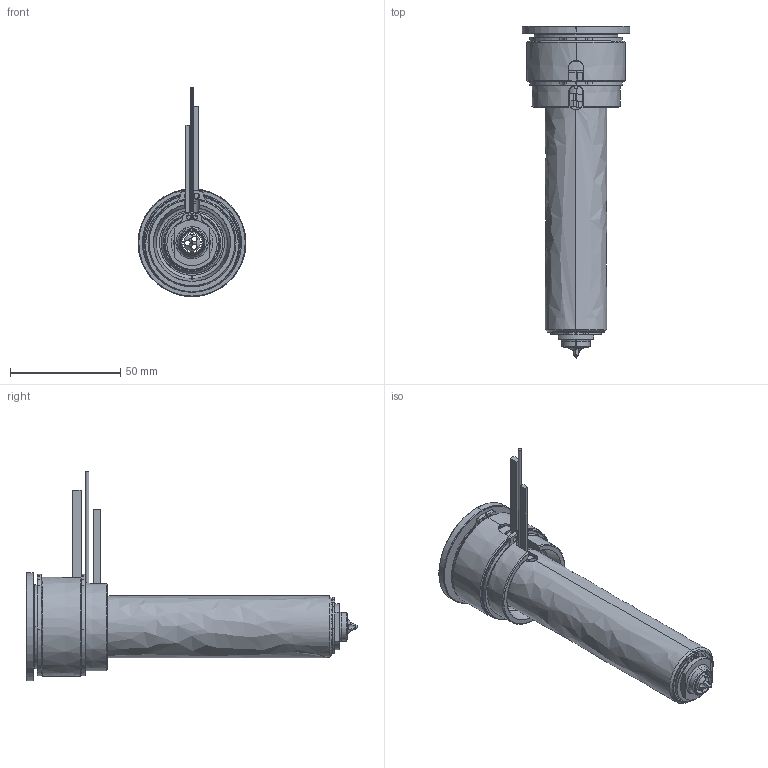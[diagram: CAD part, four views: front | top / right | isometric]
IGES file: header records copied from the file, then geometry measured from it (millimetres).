
Start section: SolidWorks IGES file using analytic representation for surfaces
Global section: file name: C:\Documents and Settings\ws-20\Desktop\TEM\UGEP4503-S-A-1 [Øf-0.88 ØC-09].IGS; native system: SolidWorks 2012; preprocessor: SolidWorks 2012; author: ws-20; date: 120424.085703; units: millimetre
Bounding box: 49 x 150.8 x 95.15 mm (x, y, z)
Surface area: 56648.8 mm2 (no closed solid volume)
Topology: 0 solids, 0 shells, 185 faces, 3470 edges, 3470 vertices
Faces by surface type: revolution 120, bspline 65
